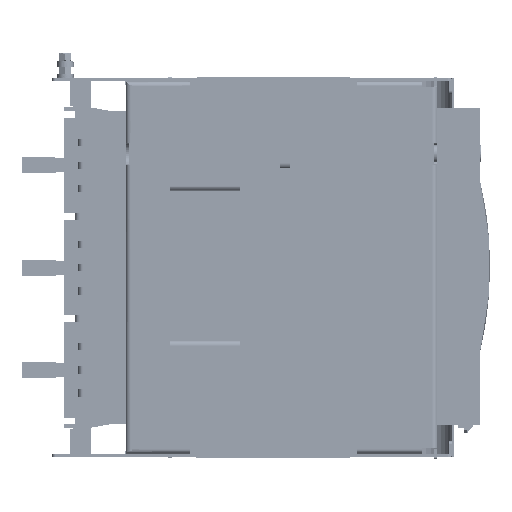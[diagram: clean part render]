
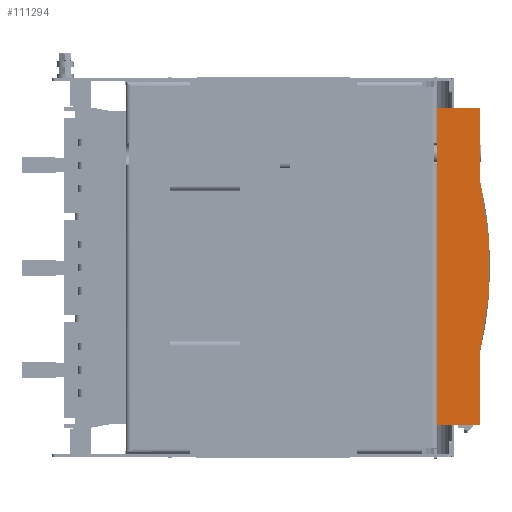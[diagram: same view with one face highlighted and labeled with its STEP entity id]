
A CAD part, front view. The second image highlights one B-rep face of the part: STEP entity #111294.
In plain terms, the highlighted planar face has unit normal (0, -1, 0).
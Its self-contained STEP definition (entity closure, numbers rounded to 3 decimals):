
#5806 = CARTESIAN_POINT ( 'NONE',  ( 590.656, 188.813, -76.312 ) ) ;
#8314 = ORIENTED_EDGE ( 'NONE', *, *, #133273, .F. ) ;
#13929 = VECTOR ( 'NONE', #143895, 1000. ) ;
#14907 = EDGE_CURVE ( 'NONE', #363872, #141704, #85689, .T. ) ;
#19088 = EDGE_CURVE ( 'NONE', #167704, #356219, #270438, .T. ) ;
#23497 = AXIS2_PLACEMENT_3D ( 'NONE', #89304, #289077, #318969 ) ;
#26073 = DIRECTION ( 'NONE',  ( 0., 0., -1. ) ) ;
#30852 = ORIENTED_EDGE ( 'NONE', *, *, #161487, .F. ) ;
#41679 = AXIS2_PLACEMENT_3D ( 'NONE', #114765, #258375, #58526 ) ;
#42050 = FACE_OUTER_BOUND ( 'NONE', #210074, .T. ) ;
#44315 = CARTESIAN_POINT ( 'NONE',  ( 590.656, 188.813, 80.688 ) ) ;
#54717 = ORIENTED_EDGE ( 'NONE', *, *, #19088, .F. ) ;
#55475 = ORIENTED_EDGE ( 'NONE', *, *, #14907, .F. ) ;
#58526 = DIRECTION ( 'NONE',  ( 0., 0., -1. ) ) ;
#85689 = LINE ( 'NONE', #173771, #13929 ) ;
#89304 = CARTESIAN_POINT ( 'NONE',  ( 254.706, 188.813, 2.188 ) ) ;
#101465 = CIRCLE ( 'NONE', #23497, 345. ) ;
#111294 = ADVANCED_FACE ( 'NONE', ( #42050 ), #369366, .F. ) ;
#114765 = CARTESIAN_POINT ( 'NONE',  ( 254.706, 188.813, 2.188 ) ) ;
#114950 = EDGE_CURVE ( 'NONE', #141704, #167704, #230001, .T. ) ;
#126251 = CARTESIAN_POINT ( 'NONE',  ( 590.656, 188.813, -145.312 ) ) ;
#133273 = EDGE_CURVE ( 'NONE', #288965, #363872, #169806, .T. ) ;
#135389 = CARTESIAN_POINT ( 'NONE',  ( 550.656, 188.813, -145.312 ) ) ;
#141704 = VERTEX_POINT ( 'NONE', #284932 ) ;
#143895 = DIRECTION ( 'NONE',  ( 0., 0., 1. ) ) ;
#160970 = CARTESIAN_POINT ( 'NONE',  ( 550.656, 188.813, -145.312 ) ) ;
#161487 = EDGE_CURVE ( 'NONE', #225895, #288965, #261490, .T. ) ;
#164012 = DIRECTION ( 'NONE',  ( -1., 0., 0. ) ) ;
#167704 = VERTEX_POINT ( 'NONE', #213184 ) ;
#168413 = CARTESIAN_POINT ( 'NONE',  ( 590.656, 188.813, -145.312 ) ) ;
#169806 = LINE ( 'NONE', #135389, #232305 ) ;
#172234 = VECTOR ( 'NONE', #272690, 1000. ) ;
#173771 = CARTESIAN_POINT ( 'NONE',  ( 550.656, 188.813, 149.688 ) ) ;
#199382 = ORIENTED_EDGE ( 'NONE', *, *, #114950, .F. ) ;
#210074 = EDGE_LOOP ( 'NONE', ( #54717, #199382, #55475, #8314, #30852, #262755 ) ) ;
#213184 = CARTESIAN_POINT ( 'NONE',  ( 590.656, 188.813, 149.688 ) ) ;
#225895 = VERTEX_POINT ( 'NONE', #5806 ) ;
#230001 = LINE ( 'NONE', #335714, #336875 ) ;
#232305 = VECTOR ( 'NONE', #164012, 1000. ) ;
#244169 = CARTESIAN_POINT ( 'NONE',  ( 590.656, 188.813, 149.688 ) ) ;
#258375 = DIRECTION ( 'NONE',  ( 0., 1., 0. ) ) ;
#261490 = LINE ( 'NONE', #168413, #305812 ) ;
#262755 = ORIENTED_EDGE ( 'NONE', *, *, #299958, .F. ) ;
#270438 = LINE ( 'NONE', #244169, #172234 ) ;
#272690 = DIRECTION ( 'NONE',  ( 0., 0., -1. ) ) ;
#284932 = CARTESIAN_POINT ( 'NONE',  ( 550.656, 188.813, 149.688 ) ) ;
#288965 = VERTEX_POINT ( 'NONE', #126251 ) ;
#289077 = DIRECTION ( 'NONE',  ( 0., 1., 0. ) ) ;
#299958 = EDGE_CURVE ( 'NONE', #356219, #225895, #101465, .T. ) ;
#305812 = VECTOR ( 'NONE', #26073, 1000. ) ;
#318969 = DIRECTION ( 'NONE',  ( 1., 0., 0. ) ) ;
#333273 = DIRECTION ( 'NONE',  ( 1., 0., 0. ) ) ;
#335714 = CARTESIAN_POINT ( 'NONE',  ( 590.656, 188.813, 149.688 ) ) ;
#336875 = VECTOR ( 'NONE', #333273, 1000. ) ;
#356219 = VERTEX_POINT ( 'NONE', #44315 ) ;
#363872 = VERTEX_POINT ( 'NONE', #160970 ) ;
#369366 = PLANE ( 'NONE',  #41679 ) ;
